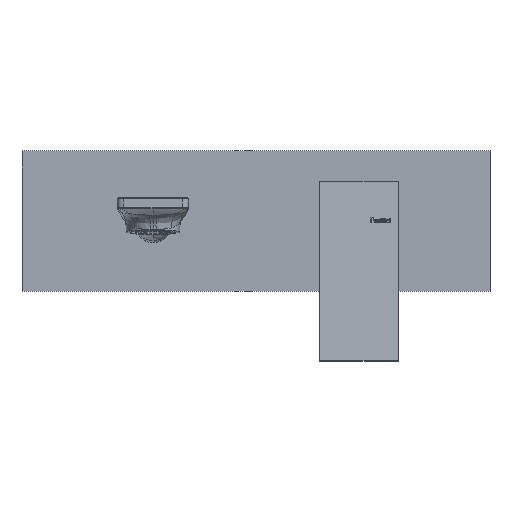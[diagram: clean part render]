
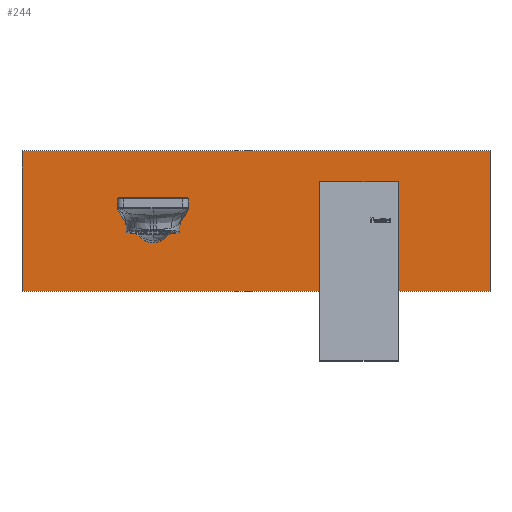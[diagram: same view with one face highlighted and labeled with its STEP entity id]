
A CAD part, top view. The second image highlights one B-rep face of the part: STEP entity #244.
In plain terms, the highlighted planar face has unit normal (0, 0, 1) as drawn and (0, 1, 0) by its records, which use the part's own axes.
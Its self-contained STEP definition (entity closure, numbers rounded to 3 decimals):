
#53=DIRECTION('',(0.,0.,1.));
#54=VECTOR('',#53,75.);
#55=CARTESIAN_POINT('',(-125.,2.,-37.5));
#56=LINE('',#55,#54);
#57=DIRECTION('',(-1.,0.,0.));
#58=VECTOR('',#57,250.);
#59=CARTESIAN_POINT('',(125.,2.,-37.5));
#60=LINE('',#59,#58);
#61=DIRECTION('',(0.,0.,-1.));
#62=VECTOR('',#61,75.);
#63=CARTESIAN_POINT('',(125.,2.,37.5));
#64=LINE('',#63,#62);
#65=DIRECTION('',(1.,0.,0.));
#66=VECTOR('',#65,250.);
#67=CARTESIAN_POINT('',(-125.,2.,37.5));
#68=LINE('',#67,#66);
#69=CARTESIAN_POINT('',(-55.,2.,0.));
#70=DIRECTION('',(0.,1.,0.));
#71=DIRECTION('',(1.,0.,0.));
#72=AXIS2_PLACEMENT_3D('',#69,#70,#71);
#74=CARTESIAN_POINT('',(-55.,2.,0.));
#75=DIRECTION('',(0.,1.,0.));
#76=DIRECTION('',(-1.,0.,0.));
#77=AXIS2_PLACEMENT_3D('',#74,#75,#76);
#79=CARTESIAN_POINT('',(55.,2.,0.));
#80=DIRECTION('',(0.,1.,0.));
#81=DIRECTION('',(1.,0.,0.));
#82=AXIS2_PLACEMENT_3D('',#79,#80,#81);
#84=CARTESIAN_POINT('',(55.,2.,0.));
#85=DIRECTION('',(0.,1.,0.));
#86=DIRECTION('',(-1.,0.,0.));
#87=AXIS2_PLACEMENT_3D('',#84,#85,#86);
#113=CARTESIAN_POINT('',(-125.,2.,37.5));
#114=CARTESIAN_POINT('',(125.,2.,37.5));
#115=VERTEX_POINT('',#113);
#116=VERTEX_POINT('',#114);
#117=CARTESIAN_POINT('',(125.,2.,-37.5));
#118=CARTESIAN_POINT('',(-125.,2.,-37.5));
#119=VERTEX_POINT('',#117);
#120=VERTEX_POINT('',#118);
#129=CARTESIAN_POINT('',(-45.25,2.,0.));
#130=CARTESIAN_POINT('',(-64.75,2.,0.));
#131=VERTEX_POINT('',#129);
#132=VERTEX_POINT('',#130);
#133=CARTESIAN_POINT('',(75.25,2.,0.));
#134=CARTESIAN_POINT('',(34.75,2.,0.));
#135=VERTEX_POINT('',#133);
#136=VERTEX_POINT('',#134);
#221=CARTESIAN_POINT('',(0.,2.,0.));
#222=DIRECTION('',(0.,1.,0.));
#223=DIRECTION('',(1.,0.,0.));
#224=AXIS2_PLACEMENT_3D('',#221,#222,#223);
#225=PLANE('',#224);
#226=ORIENTED_EDGE('',*,*,#173,.F.);
#227=ORIENTED_EDGE('',*,*,#188,.F.);
#228=ORIENTED_EDGE('',*,*,#202,.F.);
#229=ORIENTED_EDGE('',*,*,#215,.F.);
#230=EDGE_LOOP('',(#226,#227,#228,#229));
#231=FACE_OUTER_BOUND('',#230,.F.);
#233=ORIENTED_EDGE('',*,*,#232,.T.);
#235=ORIENTED_EDGE('',*,*,#234,.T.);
#236=EDGE_LOOP('',(#233,#235));
#237=FACE_BOUND('',#236,.F.);
#239=ORIENTED_EDGE('',*,*,#238,.T.);
#241=ORIENTED_EDGE('',*,*,#240,.T.);
#242=EDGE_LOOP('',(#239,#241));
#243=FACE_BOUND('',#242,.F.);
#244=ADVANCED_FACE('',(#231,#237,#243),#225,.T.);
#73=CIRCLE('',#72,9.75);
#78=CIRCLE('',#77,9.75);
#83=CIRCLE('',#82,20.25);
#88=CIRCLE('',#87,20.25);
#173=EDGE_CURVE('',#120,#115,#56,.T.);
#188=EDGE_CURVE('',#119,#120,#60,.T.);
#202=EDGE_CURVE('',#116,#119,#64,.T.);
#215=EDGE_CURVE('',#115,#116,#68,.T.);
#232=EDGE_CURVE('',#131,#132,#73,.T.);
#234=EDGE_CURVE('',#132,#131,#78,.T.);
#238=EDGE_CURVE('',#135,#136,#83,.T.);
#240=EDGE_CURVE('',#136,#135,#88,.T.);
